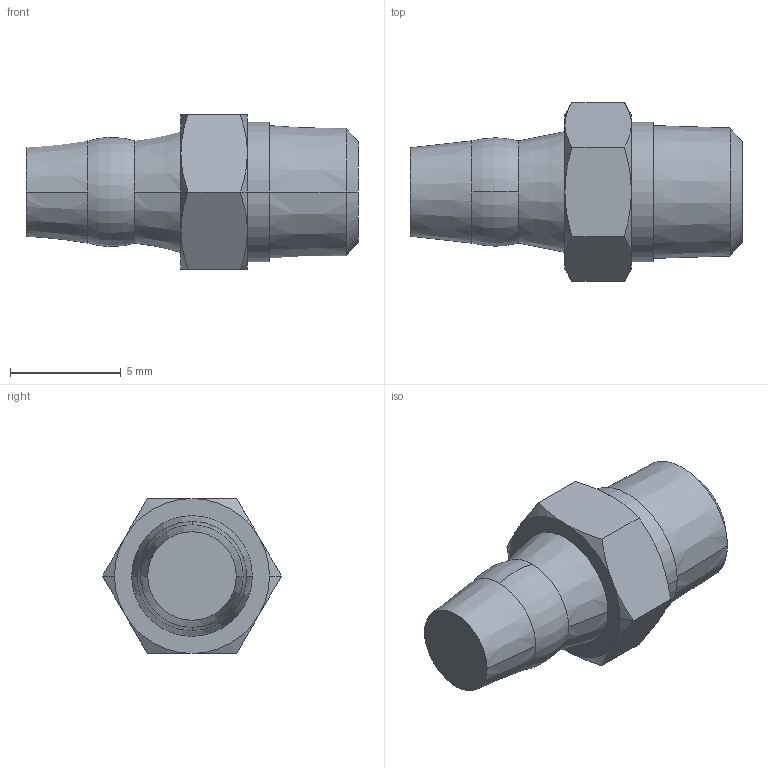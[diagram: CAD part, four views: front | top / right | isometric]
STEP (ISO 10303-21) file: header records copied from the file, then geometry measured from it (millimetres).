
FILE_DESCRIPTION( ( '' ), '1' );
FILE_NAME( '//partserver001.servicenet/client_exchange/iodir/jobs/output/wkb15066194_no0/STEP/michaud_chailly_d2_11_02_2_14b.stp', '2009-03-14T14:30:40', ( '' ), ( '' ), ' ', ' ', ' ' );
FILE_SCHEMA( ( 'automotive_design' ) );
Length unit declared in the file: millimetre
Products named in the file (1): 1
Bounding box: 15 x 8.08 x 7 mm (x, y, z)
Volume: 384.8 mm3; surface area: 332.4 mm2
Topology: 1 solids, 1 shells, 39 faces, 84 edges, 50 vertices
Faces by surface type: cone 24, plane 11, torus 2, cylinder 2
Entity records: 2036 total; most frequent: CARTESIAN_POINT 222, DIRECTION 180, STYLED_ITEM 174, PRESENTATION_STYLE_ASSIGNMENT 174, COLOUR_RGB 174, ORIENTED_EDGE 168, EDGE_CURVE 84, CURVE_STYLE 84
